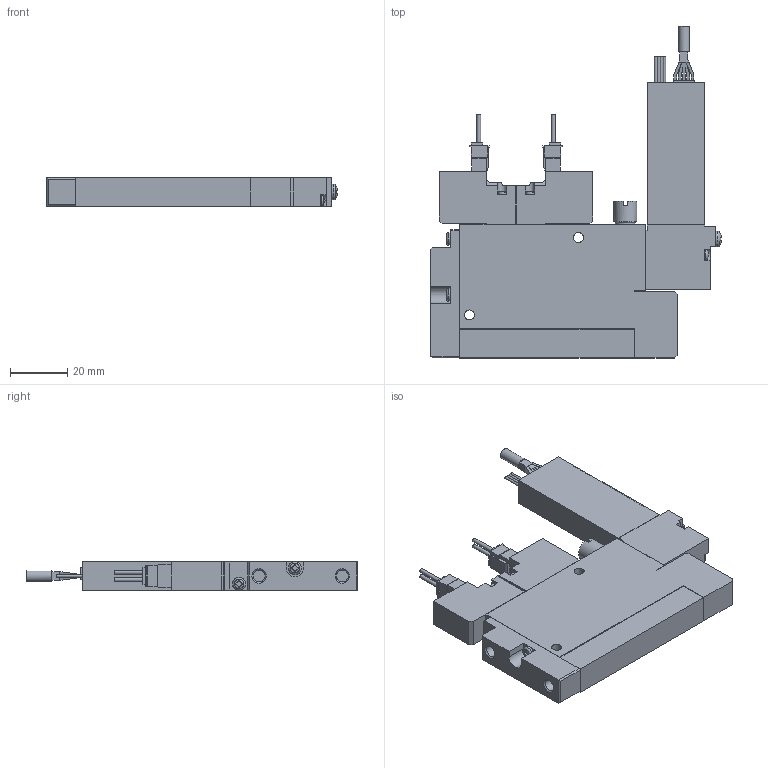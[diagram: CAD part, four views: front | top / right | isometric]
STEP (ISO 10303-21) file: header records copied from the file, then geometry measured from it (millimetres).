
FILE_DESCRIPTION(('STEP AP203'),'1');
FILE_NAME('5SC_3D.stp','2024-09-04T23:20:58',(' '),(' '),'Spatial InterOp 3D',' ',' ');
FILE_SCHEMA(('CONFIG_CONTROL_DESIGN'));
Length unit declared in the file: millimetre
Products named in the file (5): BSC1SX10※5SC; Solenoid valve S; Pressure Sensor 10; Unit-C; BaseSC10R
Assembly tree (4 placements, depth 2):
  BSC1SX10※5SC
    Solenoid valve S
    Pressure Sensor 10
    Unit-C
    BaseSC10R
Bounding box: 101.35 x 115.8 x 10 mm (x, y, z)
Volume: 61234.3 mm3; surface area: 21484.9 mm2
Topology: 4 solids, 4 shells, 437 faces, 1174 edges, 774 vertices
Faces by surface type: plane 346, cylinder 76, torus 5, sphere 5, cone 5
Full cylindrical faces by diameter (mm): 0.9 x4, 1.4 x4, 3 x4, 3.5 x8, 3.8 x1, 4.134 x4, 4.5 x2, 5.5 x2, 7 x1, 8 x1
Entity records: 13642 total; most frequent: CARTESIAN_POINT 2580, ORIENTED_EDGE 2216, DIRECTION 2174, EDGE_CURVE 1108, LINE 886, VECTOR 886, VERTEX_POINT 754, AXIS2_PLACEMENT_3D 644
